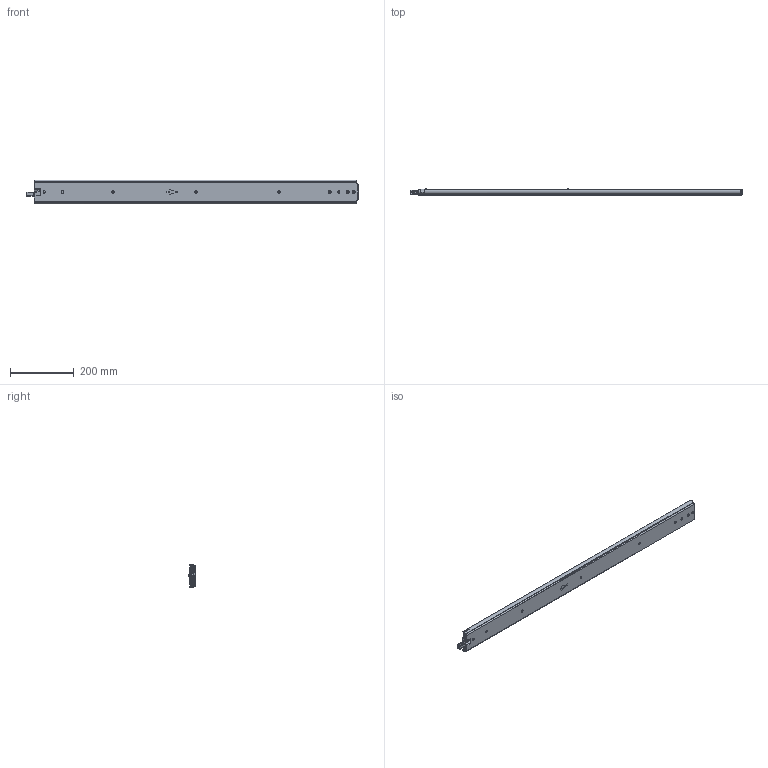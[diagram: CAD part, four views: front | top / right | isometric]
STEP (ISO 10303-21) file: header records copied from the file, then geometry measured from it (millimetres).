
FILE_DESCRIPTION((''),'2;1');
FILE_NAME('DG-76-3S-40ZUO_ASM','2023-05-10T',('jishu015'),(''),'PRO/ENGINEER BY PARAMETRIC TECHNOLOGY CORPORATION, 2010280','PRO/ENGINEER BY PARAMETRIC TECHNOLOGY CORPORATION, 2010280','');
FILE_SCHEMA(('CONFIG_CONTROL_DESIGN'));
Products named in the file (29): KP-76-04WAIKE-1816_________; 1076-WAIKEZIDANJIAO16_________; WAIK16__________ASM; 1076XIAOZHUTIAO-22516_________; 16_________; 1076XIAOZHUTIAO-17516__________ASM; KP-76-04ZHONGGUI1816_________; 76CHANGGUIZHONGGUIJIAO1621_; 3X6WODIN16_________; ZHONGGUIBAIKOU16_________; PJ-76-30________; PJ-76-03________; 76-XIAOZHUJIA-11________; GANGZHU-XIAO________; ZHUJIA-XIAO_________ASM; ZHONGGUI6__________ASM; KP-76-04NEIGUI1816_________; PJ-76-31________; DAOGPIAN16_________; 1053-3SBANJ01________; JIAO-11________; 76XINSUOKOU________; PJ-338________; PJ-356________; PJ-357________; PJ-336________; M4X4________; NEIGUI16__________ASM; DG-76-3S-40ZUO_ASM
Assembly tree (83 placements, depth 4):
  DG-76-3S-40ZUO_ASM
    WAIK16__________ASM
      KP-76-04WAIKE-1816_________
      1076-WAIKEZIDANJIAO16_________  x2
    1076XIAOZHUTIAO-17516__________ASM  x2
      1076XIAOZHUTIAO-22516_________
      16_________
    ZHONGGUI6__________ASM
      KP-76-04ZHONGGUI1816_________
      76CHANGGUIZHONGGUIJIAO1621_
      3X6WODIN16_________
      ZHONGGUIBAIKOU16_________
      PJ-76-30________
      PJ-76-03________
      ZHUJIA-XIAO_________ASM
        76-XIAOZHUJIA-11________
        GANGZHU-XIAO________  x38
    NEIGUI16__________ASM
      KP-76-04NEIGUI1816_________
      PJ-76-31________
      DAOGPIAN16_________
      1053-3SBANJ01________
      JIAO-11________
      76XINSUOKOU________
      PJ-338________
      PJ-356________
      PJ-357________
      PJ-336________
      M4X4________
Bounding box: 1041.92 x 20.7 x 75.3 mm (x, y, z)
Volume: 668026.5 mm3; surface area: 644466.2 mm2
Topology: 96 solids, 96 shells, 2397 faces, 7254 edges, 4588 vertices
Faces by surface type: plane 1231, cylinder 888, sphere 151, bspline 60, cone 28, extrusion 23, torus 16
Entity records: 77800 total; most frequent: CARTESIAN_POINT 20854, ORIENTED_EDGE 12468, DIRECTION 11265, EDGE_CURVE 6234, VERTEX_POINT 4060, AXIS2_PLACEMENT_3D 3892, VECTOR 3481, LINE 3458
